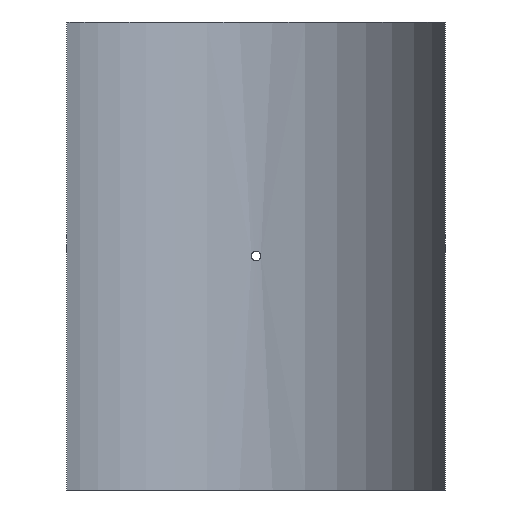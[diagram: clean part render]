
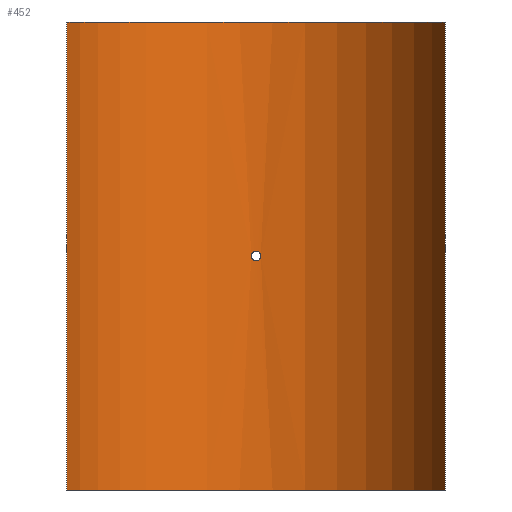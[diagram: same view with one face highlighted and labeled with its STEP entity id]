
A CAD part, front view. The second image highlights one B-rep face of the part: STEP entity #452.
In plain terms, the highlighted cylindrical face has radius 200 mm (diameter 400 mm), a partial arc.
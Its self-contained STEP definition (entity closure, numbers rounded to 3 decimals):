
#19=B_SPLINE_CURVE_WITH_KNOTS('',3,(#788,#789,#790,#791,#792,#793,#794,
#795,#796,#797,#798,#799,#800,#801,#802,#803,#804,#805,#806,#807,#808,#809,
#810,#811,#812,#813,#814,#815,#816,#817,#818,#819,#820,#821),
 .UNSPECIFIED.,.T.,.F.,(4,2,2,2,2,2,2,2,2,2,2,2,2,2,2,2,4),(0.,0.181,
0.362,0.542,0.723,0.904,
1.085,1.266,1.447,1.627,1.808,
1.989,2.17,2.351,2.531,2.712,
2.893),.UNSPECIFIED.);
#43=LINE('',#1065,#62);
#44=LINE('',#1068,#63);
#62=VECTOR('',#661,10.);
#63=VECTOR('',#664,10.);
#76=CYLINDRICAL_SURFACE('',#530,200.);
#88=FACE_BOUND('',#167,.T.);
#127=FACE_OUTER_BOUND('',#166,.T.);
#166=EDGE_LOOP('',(#405,#406,#407,#408));
#167=EDGE_LOOP('',(#409));
#201=CIRCLE('',#529,200.);
#202=CIRCLE('',#531,200.);
#219=VERTEX_POINT('',#786);
#242=VERTEX_POINT('',#1058);
#243=VERTEX_POINT('',#1060);
#244=VERTEX_POINT('',#1064);
#245=VERTEX_POINT('',#1066);
#267=EDGE_CURVE('',#219,#219,#19,.T.);
#299=EDGE_CURVE('',#242,#243,#201,.T.);
#301=EDGE_CURVE('',#244,#242,#43,.T.);
#302=EDGE_CURVE('',#245,#244,#202,.T.);
#303=EDGE_CURVE('',#245,#243,#44,.T.);
#405=ORIENTED_EDGE('',*,*,#301,.F.);
#406=ORIENTED_EDGE('',*,*,#302,.F.);
#407=ORIENTED_EDGE('',*,*,#303,.T.);
#408=ORIENTED_EDGE('',*,*,#299,.F.);
#409=ORIENTED_EDGE('',*,*,#267,.T.);
#452=ADVANCED_FACE('',(#127,#88),#76,.F.);
#529=AXIS2_PLACEMENT_3D('',#1061,#656,#657);
#530=AXIS2_PLACEMENT_3D('',#1063,#659,#660);
#531=AXIS2_PLACEMENT_3D('',#1067,#662,#663);
#656=DIRECTION('center_axis',(0.,0.,1.));
#657=DIRECTION('ref_axis',(0.95,0.312,0.));
#659=DIRECTION('center_axis',(0.,0.,1.));
#660=DIRECTION('ref_axis',(0.95,0.312,0.));
#661=DIRECTION('',(0.,0.,-1.));
#662=DIRECTION('center_axis',(0.,0.,-1.));
#663=DIRECTION('ref_axis',(0.95,0.312,0.));
#664=DIRECTION('',(0.,0.,-1.));
#786=CARTESIAN_POINT('',(4.8,199.942,0.));
#788=CARTESIAN_POINT('Ctrl Pts',(4.8,199.942,0.));
#789=CARTESIAN_POINT('Ctrl Pts',(4.8,199.942,-0.603));
#790=CARTESIAN_POINT('Ctrl Pts',(4.68,199.945,-1.246));
#791=CARTESIAN_POINT('Ctrl Pts',(4.19,199.956,-2.428));
#792=CARTESIAN_POINT('Ctrl Pts',(3.82,199.964,-2.968));
#793=CARTESIAN_POINT('Ctrl Pts',(2.968,199.978,-3.82));
#794=CARTESIAN_POINT('Ctrl Pts',(2.428,199.986,-4.19));
#795=CARTESIAN_POINT('Ctrl Pts',(1.246,199.997,-4.68));
#796=CARTESIAN_POINT('Ctrl Pts',(0.603,200.,-4.8));
#797=CARTESIAN_POINT('Ctrl Pts',(-0.603,200.,-4.8));
#798=CARTESIAN_POINT('Ctrl Pts',(-1.246,199.997,-4.68));
#799=CARTESIAN_POINT('Ctrl Pts',(-2.428,199.986,-4.19));
#800=CARTESIAN_POINT('Ctrl Pts',(-2.968,199.978,-3.82));
#801=CARTESIAN_POINT('Ctrl Pts',(-3.82,199.964,-2.968));
#802=CARTESIAN_POINT('Ctrl Pts',(-4.19,199.956,-2.428));
#803=CARTESIAN_POINT('Ctrl Pts',(-4.68,199.945,-1.246));
#804=CARTESIAN_POINT('Ctrl Pts',(-4.8,199.942,-0.603));
#805=CARTESIAN_POINT('Ctrl Pts',(-4.8,199.942,0.603));
#806=CARTESIAN_POINT('Ctrl Pts',(-4.68,199.945,1.246));
#807=CARTESIAN_POINT('Ctrl Pts',(-4.19,199.956,2.428));
#808=CARTESIAN_POINT('Ctrl Pts',(-3.82,199.964,2.968));
#809=CARTESIAN_POINT('Ctrl Pts',(-2.968,199.978,3.82));
#810=CARTESIAN_POINT('Ctrl Pts',(-2.428,199.986,4.19));
#811=CARTESIAN_POINT('Ctrl Pts',(-1.246,199.997,4.68));
#812=CARTESIAN_POINT('Ctrl Pts',(-0.603,200.,4.8));
#813=CARTESIAN_POINT('Ctrl Pts',(0.603,200.,4.8));
#814=CARTESIAN_POINT('Ctrl Pts',(1.246,199.997,4.68));
#815=CARTESIAN_POINT('Ctrl Pts',(2.428,199.986,4.19));
#816=CARTESIAN_POINT('Ctrl Pts',(2.968,199.978,3.82));
#817=CARTESIAN_POINT('Ctrl Pts',(3.82,199.964,2.968));
#818=CARTESIAN_POINT('Ctrl Pts',(4.19,199.956,2.428));
#819=CARTESIAN_POINT('Ctrl Pts',(4.68,199.945,1.246));
#820=CARTESIAN_POINT('Ctrl Pts',(4.8,199.942,0.603));
#821=CARTESIAN_POINT('Ctrl Pts',(4.8,199.942,0.));
#1058=CARTESIAN_POINT('',(190.,62.45,-235.));
#1060=CARTESIAN_POINT('',(-190.,62.45,-235.));
#1061=CARTESIAN_POINT('Origin',(0.,0.,
-235.));
#1063=CARTESIAN_POINT('Origin',(0.,0.,
0.));
#1064=CARTESIAN_POINT('',(190.,62.45,235.));
#1065=CARTESIAN_POINT('',(190.,62.45,0.));
#1066=CARTESIAN_POINT('',(-190.,62.45,235.));
#1067=CARTESIAN_POINT('Origin',(0.,0.,
235.));
#1068=CARTESIAN_POINT('',(-190.,62.45,0.));
